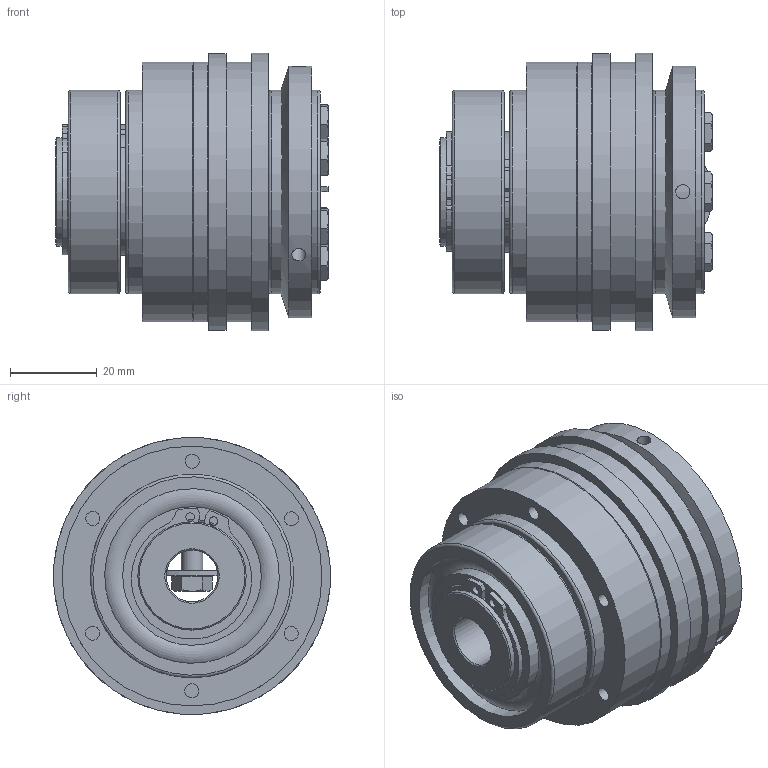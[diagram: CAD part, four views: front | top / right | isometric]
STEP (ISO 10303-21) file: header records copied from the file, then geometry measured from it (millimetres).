
FILE_DESCRIPTION( ( 'Unknown' ), '1' );
FILE_NAME( 'C:/Dokumente und Einstellungen/Sven/Desktop/hp kbk/KBK LL-A-30.stp', 'Unknown', ( 'Unknown' ), ( 'Unknown' ), 'XStep 1.0', 'Unknown', ' ' );
FILE_SCHEMA( ( 'automotive_design' ) );
Length unit declared in the file: millimetre
Products named in the file (12): Assem1; Assem2; ball_bearing_-_6005_0_01; ball_bearing_-_6005_0_02; ball_bearing_-_6005_0_03; Stellring 30; Druckring 30; a_25; Druckring L-A-30; din_en_24017_m5x16; LL-A-30 Grundkörper; Flansch L30
Bounding box: 63 x 64 x 64 mm (x, y, z)
Volume: 208777.7 mm3; surface area: 118003.6 mm2
Topology: 32 solids, 32 shells, 472 faces, 1002 edges, 641 vertices
Faces by surface type: plane 201, cylinder 146, cone 86, torus 39
Full cylindrical faces by diameter (mm): 2 x6, 3.242 x18, 4.134 x12, 5 x7, 5.5 x12, 6.88 x7, 12 x2, 23.9 x4, 24.7 x2, 25 x10, 32 x8, 34 x2, 38 x4, 40 x2, 40.3 x8, 46 x2, 47 x6, 52 x2, 58 x2, 60 x4, 64 x2
Entity records: 4435 total; most frequent: CARTESIAN_POINT 959, DIRECTION 744, ORIENTED_EDGE 486, AXIS2_PLACEMENT_3D 344, EDGE_LOOP 284, EDGE_CURVE 243, FACE_OUTER_BOUND 213, VERTEX_POINT 199
